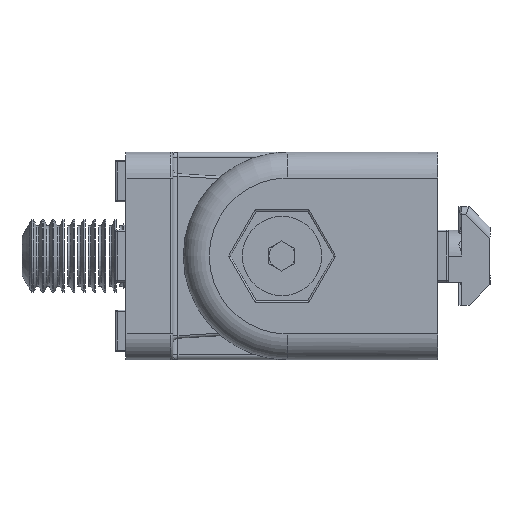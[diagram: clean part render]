
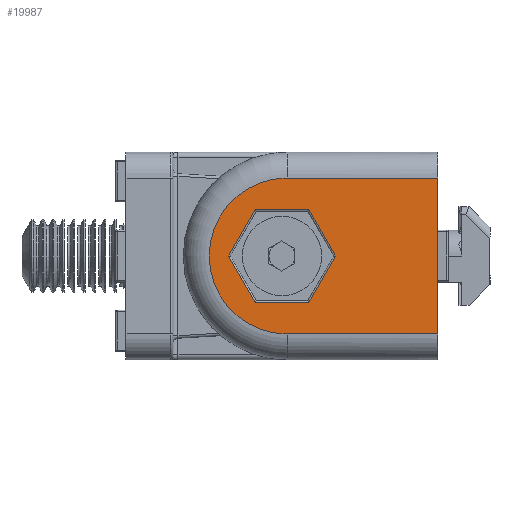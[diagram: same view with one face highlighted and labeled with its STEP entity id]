
A CAD part, left-side view. The second image highlights one B-rep face of the part: STEP entity #19987.
In plain terms, the highlighted planar face has unit normal (-1, 0, 0).
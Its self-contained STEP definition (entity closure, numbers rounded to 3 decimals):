
#71=FACE_BOUND('',#1868,.T.);
#180=PLANE('',#20992);
#977=FACE_OUTER_BOUND('',#1867,.T.);
#1867=EDGE_LOOP('',(#14482,#14483,#14484,#14485));
#1868=EDGE_LOOP('',(#14486,#14487,#14488,#14489,#14490,#14491));
#2863=LINE('',#29096,#5268);
#2864=LINE('',#29101,#5269);
#2865=LINE('',#29105,#5270);
#2866=LINE('',#29109,#5271);
#2867=LINE('',#29113,#5272);
#2868=LINE('',#29115,#5273);
#2869=LINE('',#29119,#5274);
#2870=LINE('',#29121,#5275);
#2871=LINE('',#29124,#5276);
#5268=VECTOR('',#22825,1000.);
#5269=VECTOR('',#22832,1000.);
#5270=VECTOR('',#22837,1000.);
#5271=VECTOR('',#22842,1000.);
#5272=VECTOR('',#22847,1000.);
#5273=VECTOR('',#22850,1000.);
#5274=VECTOR('',#22853,1000.);
#5275=VECTOR('',#22854,1000.);
#5276=VECTOR('',#22857,1000.);
#7658=CIRCLE('',#20993,15.);
#8494=VERTEX_POINT('',#29093);
#8495=VERTEX_POINT('',#29095);
#8496=VERTEX_POINT('',#29099);
#8497=VERTEX_POINT('',#29103);
#8498=VERTEX_POINT('',#29107);
#8499=VERTEX_POINT('',#29111);
#8500=VERTEX_POINT('',#29117);
#8501=VERTEX_POINT('',#29118);
#8502=VERTEX_POINT('',#29120);
#8503=VERTEX_POINT('',#29122);
#10982=EDGE_CURVE('',#8495,#8494,#2863,.T.);
#10985=EDGE_CURVE('',#8494,#8496,#2864,.T.);
#10987=EDGE_CURVE('',#8496,#8497,#2865,.T.);
#10989=EDGE_CURVE('',#8497,#8498,#2866,.T.);
#10991=EDGE_CURVE('',#8498,#8499,#2867,.T.);
#10992=EDGE_CURVE('',#8499,#8495,#2868,.T.);
#10993=EDGE_CURVE('',#8500,#8501,#2869,.T.);
#10994=EDGE_CURVE('',#8500,#8502,#2870,.T.);
#10995=EDGE_CURVE('',#8502,#8503,#7658,.T.);
#10996=EDGE_CURVE('',#8503,#8501,#2871,.T.);
#14482=ORIENTED_EDGE('',*,*,#10993,.F.);
#14483=ORIENTED_EDGE('',*,*,#10994,.T.);
#14484=ORIENTED_EDGE('',*,*,#10995,.T.);
#14485=ORIENTED_EDGE('',*,*,#10996,.T.);
#14486=ORIENTED_EDGE('',*,*,#10992,.T.);
#14487=ORIENTED_EDGE('',*,*,#10982,.T.);
#14488=ORIENTED_EDGE('',*,*,#10985,.T.);
#14489=ORIENTED_EDGE('',*,*,#10987,.T.);
#14490=ORIENTED_EDGE('',*,*,#10989,.T.);
#14491=ORIENTED_EDGE('',*,*,#10991,.T.);
#19987=ADVANCED_FACE('',(#977,#71),#180,.F.);
#20992=AXIS2_PLACEMENT_3D('',#29116,#22851,#22852);
#20993=AXIS2_PLACEMENT_3D('',#29123,#22855,#22856);
#22825=DIRECTION('',(0.,-0.5,0.866));
#22832=DIRECTION('',(0.,-1.,0.));
#22837=DIRECTION('',(0.,-0.5,-0.866));
#22842=DIRECTION('',(0.,0.5,-0.866));
#22847=DIRECTION('',(0.,1.,0.));
#22850=DIRECTION('',(0.,0.5,0.866));
#22851=DIRECTION('center_axis',(1.,0.,0.));
#22852=DIRECTION('ref_axis',(0.,0.,-1.));
#22853=DIRECTION('',(0.,0.,-1.));
#22854=DIRECTION('',(0.,1.,0.));
#22855=DIRECTION('center_axis',(-1.,0.,0.));
#22856=DIRECTION('ref_axis',(0.,0.,-1.));
#22857=DIRECTION('',(0.,-1.,0.));
#29093=CARTESIAN_POINT('',(-20.767,11.391,8.804));
#29095=CARTESIAN_POINT('',(-20.767,16.53,-0.096));
#29096=CARTESIAN_POINT('',(-20.767,0.05,28.447));
#29099=CARTESIAN_POINT('',(-20.767,1.114,8.804));
#29101=CARTESIAN_POINT('',(-20.767,-14.747,8.804));
#29103=CARTESIAN_POINT('',(-20.767,-4.024,-0.096));
#29105=CARTESIAN_POINT('',(-20.767,1.955,10.261));
#29107=CARTESIAN_POINT('',(-20.767,1.114,-8.996));
#29109=CARTESIAN_POINT('',(-20.767,-15.365,19.547));
#29111=CARTESIAN_POINT('',(-20.767,11.391,-8.996));
#29113=CARTESIAN_POINT('',(-20.767,-14.747,-8.996));
#29115=CARTESIAN_POINT('',(-20.767,17.371,1.361));
#29116=CARTESIAN_POINT('Origin',(-20.767,-14.747,19.904));
#29117=CARTESIAN_POINT('',(-20.767,-23.747,14.904));
#29118=CARTESIAN_POINT('',(-20.767,-23.747,-15.096));
#29119=CARTESIAN_POINT('',(-20.767,-23.747,19.904));
#29120=CARTESIAN_POINT('',(-20.767,5.253,14.904));
#29121=CARTESIAN_POINT('',(-20.767,-14.747,14.904));
#29122=CARTESIAN_POINT('',(-20.767,5.253,-15.096));
#29123=CARTESIAN_POINT('Origin',(-20.767,5.253,-0.096));
#29124=CARTESIAN_POINT('',(-20.767,-23.747,-15.096));
